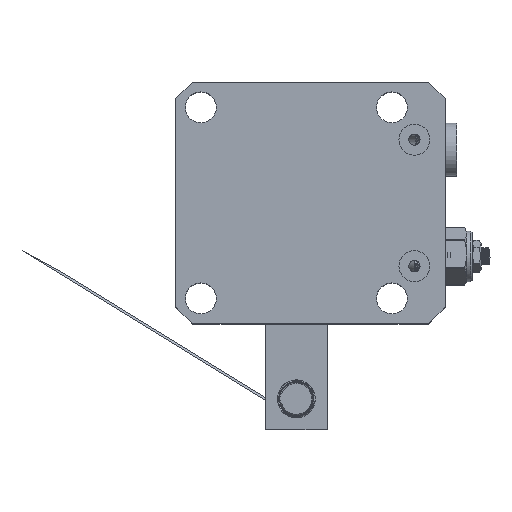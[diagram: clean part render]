
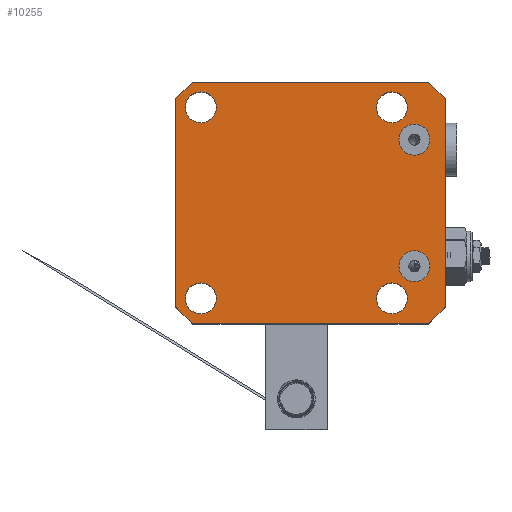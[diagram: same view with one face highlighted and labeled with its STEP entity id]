
A CAD part, top view. The second image highlights one B-rep face of the part: STEP entity #10255.
In plain terms, the highlighted planar face has unit normal (0, 0, 1).
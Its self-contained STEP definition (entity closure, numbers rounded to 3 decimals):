
#1174=FACE_BOUND('',#2522,.T.);
#1175=FACE_BOUND('',#2523,.T.);
#1176=FACE_BOUND('',#2524,.T.);
#1177=FACE_BOUND('',#2525,.T.);
#1178=FACE_BOUND('',#2526,.T.);
#1179=FACE_BOUND('',#2527,.T.);
#1259=CIRCLE('',#11225,5.5);
#1261=CIRCLE('',#11228,5.5);
#1263=CIRCLE('',#11231,5.5);
#1265=CIRCLE('',#11234,5.5);
#1267=CIRCLE('',#11237,5.5);
#1269=CIRCLE('',#11240,5.5);
#1920=FACE_OUTER_BOUND('',#2521,.T.);
#2521=EDGE_LOOP('',(#7319,#7320,#7321,#7322,#7323,#7324,#7325,#7326));
#2522=EDGE_LOOP('',(#7327));
#2523=EDGE_LOOP('',(#7328));
#2524=EDGE_LOOP('',(#7329));
#2525=EDGE_LOOP('',(#7330));
#2526=EDGE_LOOP('',(#7331));
#2527=EDGE_LOOP('',(#7332));
#3211=LINE('',#16601,#3777);
#3212=LINE('',#16603,#3778);
#3213=LINE('',#16605,#3779);
#3214=LINE('',#16607,#3780);
#3215=LINE('',#16609,#3781);
#3216=LINE('',#16611,#3782);
#3217=LINE('',#16613,#3783);
#3218=LINE('',#16614,#3784);
#3777=VECTOR('',#12292,1000.);
#3778=VECTOR('',#12293,1000.);
#3779=VECTOR('',#12294,1000.);
#3780=VECTOR('',#12295,1000.);
#3781=VECTOR('',#12296,1000.);
#3782=VECTOR('',#12297,1000.);
#3783=VECTOR('',#12298,1000.);
#3784=VECTOR('',#12299,1000.);
#4352=VERTEX_POINT('',#15753);
#4354=VERTEX_POINT('',#15759);
#4356=VERTEX_POINT('',#15765);
#4358=VERTEX_POINT('',#15771);
#4360=VERTEX_POINT('',#15777);
#4362=VERTEX_POINT('',#15783);
#4407=VERTEX_POINT('',#16599);
#4408=VERTEX_POINT('',#16600);
#4409=VERTEX_POINT('',#16602);
#4410=VERTEX_POINT('',#16604);
#4411=VERTEX_POINT('',#16606);
#4412=VERTEX_POINT('',#16608);
#4413=VERTEX_POINT('',#16610);
#4414=VERTEX_POINT('',#16612);
#5523=EDGE_CURVE('',#4352,#4352,#1259,.T.);
#5526=EDGE_CURVE('',#4354,#4354,#1261,.T.);
#5529=EDGE_CURVE('',#4356,#4356,#1263,.T.);
#5532=EDGE_CURVE('',#4358,#4358,#1265,.T.);
#5535=EDGE_CURVE('',#4360,#4360,#1267,.T.);
#5538=EDGE_CURVE('',#4362,#4362,#1269,.T.);
#5610=EDGE_CURVE('',#4407,#4408,#3211,.T.);
#5611=EDGE_CURVE('',#4408,#4409,#3212,.T.);
#5612=EDGE_CURVE('',#4409,#4410,#3213,.T.);
#5613=EDGE_CURVE('',#4410,#4411,#3214,.T.);
#5614=EDGE_CURVE('',#4411,#4412,#3215,.T.);
#5615=EDGE_CURVE('',#4412,#4413,#3216,.T.);
#5616=EDGE_CURVE('',#4413,#4414,#3217,.T.);
#5617=EDGE_CURVE('',#4414,#4407,#3218,.T.);
#7319=ORIENTED_EDGE('',*,*,#5610,.T.);
#7320=ORIENTED_EDGE('',*,*,#5611,.T.);
#7321=ORIENTED_EDGE('',*,*,#5612,.T.);
#7322=ORIENTED_EDGE('',*,*,#5613,.T.);
#7323=ORIENTED_EDGE('',*,*,#5614,.T.);
#7324=ORIENTED_EDGE('',*,*,#5615,.T.);
#7325=ORIENTED_EDGE('',*,*,#5616,.T.);
#7326=ORIENTED_EDGE('',*,*,#5617,.T.);
#7327=ORIENTED_EDGE('',*,*,#5529,.T.);
#7328=ORIENTED_EDGE('',*,*,#5532,.T.);
#7329=ORIENTED_EDGE('',*,*,#5535,.T.);
#7330=ORIENTED_EDGE('',*,*,#5538,.T.);
#7331=ORIENTED_EDGE('',*,*,#5523,.F.);
#7332=ORIENTED_EDGE('',*,*,#5526,.F.);
#10042=PLANE('',#11267);
#10255=ADVANCED_FACE('',(#1920,#1174,#1175,#1176,#1177,#1178,#1179),#10042,
 .T.);
#11225=AXIS2_PLACEMENT_3D('',#15755,#12190,#12191);
#11228=AXIS2_PLACEMENT_3D('',#15761,#12197,#12198);
#11231=AXIS2_PLACEMENT_3D('',#15767,#12204,#12205);
#11234=AXIS2_PLACEMENT_3D('',#15773,#12211,#12212);
#11237=AXIS2_PLACEMENT_3D('',#15779,#12218,#12219);
#11240=AXIS2_PLACEMENT_3D('',#15785,#12225,#12226);
#11267=AXIS2_PLACEMENT_3D('',#16598,#12290,#12291);
#12190=DIRECTION('center_axis',(0.,0.,1.));
#12191=DIRECTION('ref_axis',(1.,0.,0.));
#12197=DIRECTION('center_axis',(0.,0.,1.));
#12198=DIRECTION('ref_axis',(1.,0.,0.));
#12204=DIRECTION('center_axis',(0.,0.,
-1.));
#12205=DIRECTION('ref_axis',(0.,-1.,0.));
#12211=DIRECTION('center_axis',(0.,0.,-1.));
#12212=DIRECTION('ref_axis',(0.,-1.,0.));
#12218=DIRECTION('center_axis',(0.,0.,-1.));
#12219=DIRECTION('ref_axis',(0.,-1.,0.));
#12225=DIRECTION('center_axis',(0.,0.,
-1.));
#12226=DIRECTION('ref_axis',(0.,-1.,0.));
#12290=DIRECTION('center_axis',(0.,0.,1.));
#12291=DIRECTION('ref_axis',(1.,0.,0.));
#12292=DIRECTION('',(0.,1.,0.));
#12293=DIRECTION('',(-0.707,0.707,0.));
#12294=DIRECTION('',(-1.,0.,0.));
#12295=DIRECTION('',(-0.707,-0.707,0.));
#12296=DIRECTION('',(0.,-1.,0.));
#12297=DIRECTION('',(0.707,-0.707,0.));
#12298=DIRECTION('',(1.,0.,0.));
#12299=DIRECTION('',(0.707,0.707,0.));
#15753=CARTESIAN_POINT('',(36.5,-22.5,47.5));
#15755=CARTESIAN_POINT('Origin',(42.,-22.5,47.5));
#15759=CARTESIAN_POINT('',(36.5,22.5,47.5));
#15761=CARTESIAN_POINT('Origin',(42.,22.5,47.5));
#15765=CARTESIAN_POINT('',(-34.,-28.5,47.5));
#15767=CARTESIAN_POINT('Origin',(-34.,-34.,47.5));
#15771=CARTESIAN_POINT('',(34.,-28.5,47.5));
#15773=CARTESIAN_POINT('Origin',(34.,-34.,47.5));
#15777=CARTESIAN_POINT('',(34.,39.5,47.5));
#15779=CARTESIAN_POINT('Origin',(34.,34.,47.5));
#15783=CARTESIAN_POINT('',(-34.,39.5,47.5));
#15785=CARTESIAN_POINT('Origin',(-34.,34.,47.5));
#16598=CARTESIAN_POINT('Origin',(-43.,-43.,47.5));
#16599=CARTESIAN_POINT('',(53.,-37.,47.5));
#16600=CARTESIAN_POINT('',(53.,37.,47.5));
#16601=CARTESIAN_POINT('',(53.,-43.,47.5));
#16602=CARTESIAN_POINT('',(47.,43.,47.5));
#16603=CARTESIAN_POINT('',(53.,37.,47.5));
#16604=CARTESIAN_POINT('',(-37.,43.,47.5));
#16605=CARTESIAN_POINT('',(-43.,43.,47.5));
#16606=CARTESIAN_POINT('',(-43.,37.,47.5));
#16607=CARTESIAN_POINT('',(-37.,43.,47.5));
#16608=CARTESIAN_POINT('',(-43.,-37.,47.5));
#16609=CARTESIAN_POINT('',(-43.,-43.,47.5));
#16610=CARTESIAN_POINT('',(-37.,-43.,47.5));
#16611=CARTESIAN_POINT('',(-43.,-37.,47.5));
#16612=CARTESIAN_POINT('',(47.,-43.,47.5));
#16613=CARTESIAN_POINT('',(-43.,-43.,47.5));
#16614=CARTESIAN_POINT('',(47.,-43.,47.5));
